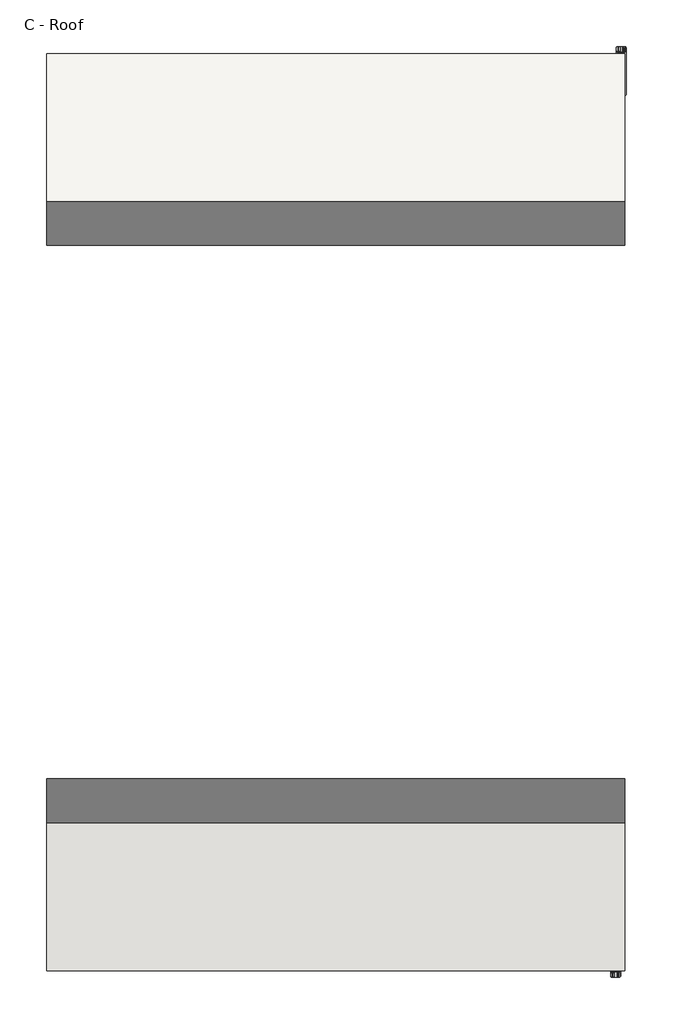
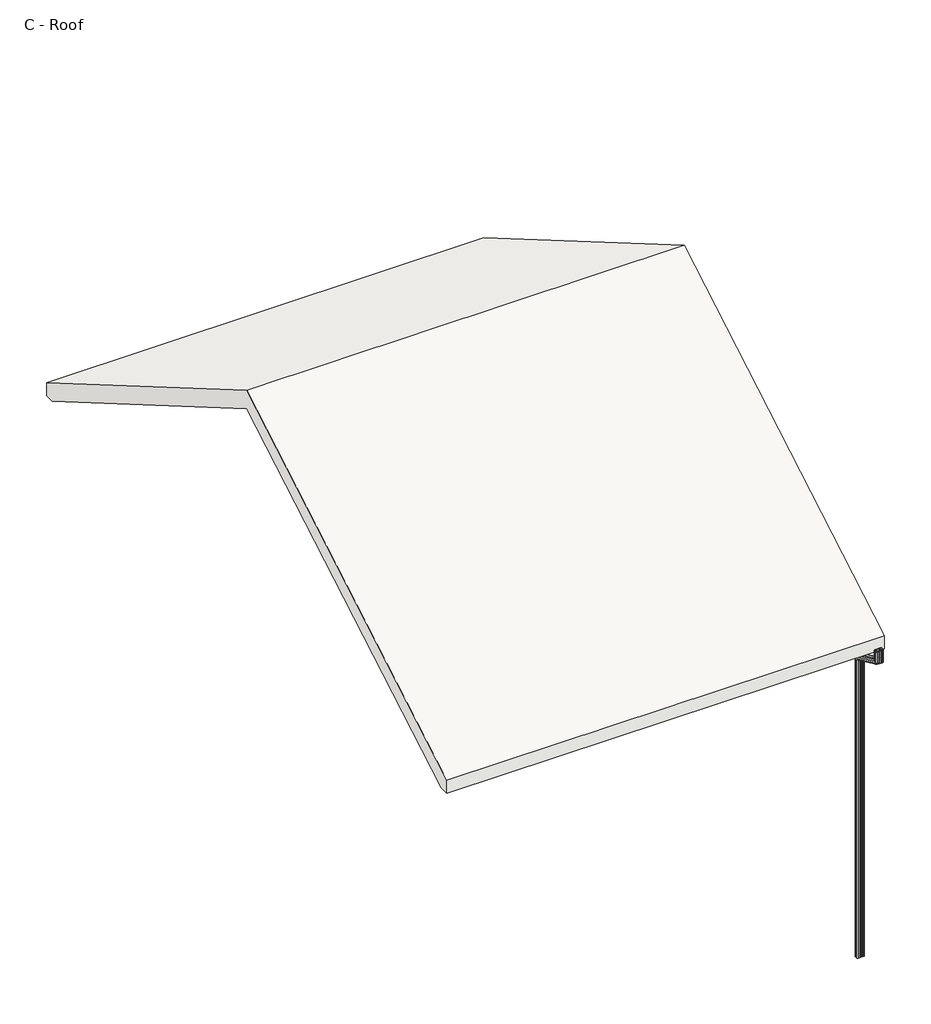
# One storey: 4 proxies, 1 roof.
"""IFC4 building model written with IfcOpenShell, lengths in millimetres."""

from ifc_helpers import new_model, si_unit, frame, origin, place, context, project, spatial, polyline, outline, extrude, transform, mapped, element, save
from components import downspout_parametric_5251_18_830a5993, downspout_parametric_5251_20_f7a235c1

model = new_model("IFC4")

# Units and contexts
model_context = context("Model", 3, world=origin())
ifc_project = project(units=[si_unit("LENGTHUNIT", "METRE", prefix="MILLI")], contexts=[model_context])

# Site, building, storey
site = spatial("IfcSite", under=ifc_project)
building = spatial("IfcBuilding", under=site)
storey = spatial("IfcBuildingStorey", under=building, Name="C - Roof", Elevation=7346.95)

# Proxies
placement = place(None, origin())
downspout_parametric_5251_18_shape = downspout_parametric_5251_18_830a5993(model_context)
element("IfcBuildingElementProxy", 1, Name="Downspout_-_Parametric_5251 : 18'", ObjectType="Downspout_-_Parametric_5251 : 18'", at=placement, inside=storey, context=model_context, shape_type="MappedRepresentation", body=[
    mapped(downspout_parametric_5251_18_shape, transform((10562.1120514, 4843.8210538, 7150.1), x_axis=(-1.0, 0.0, 0.0), y_axis=(0.0, -1.0, 0.0), z_axis=(0.0, 0.0, 1.0))),
])
element("IfcBuildingElementProxy", 2, Name="Downspout_-_Parametric_5251 : 18'", ObjectType="Downspout_-_Parametric_5251 : 18'", at=placement, inside=storey, context=model_context, shape_type="MappedRepresentation", body=[
    mapped(downspout_parametric_5251_18_shape, transform((10527.1870514, 4843.8210538, 7150.1), x_axis=(-1.0, 0.0, 0.0), y_axis=(0.0, -1.0, 0.0), z_axis=(0.0, 0.0, 1.0))),
])
downspout_parametric_5251_20_shape = downspout_parametric_5251_20_f7a235c1(model_context)
element("IfcBuildingElementProxy", 3, Name="Downspout_-_Parametric_5251 : 20'", ObjectType="Downspout_-_Parametric_5251 : 20'", at=placement, inside=storey, context=model_context, shape_type="MappedRepresentation", body=[
    mapped(downspout_parametric_5251_20_shape, transform((10485.9120514, -8018.1039462, 7150.1), x_axis=(1.0, 0.0, 0.0), y_axis=(0.0, 1.0, 0.0), z_axis=(0.0, 0.0, 1.0))),
])
element("IfcBuildingElementProxy", 4, Name="Downspout_-_Parametric_5251 : 20'", ObjectType="Downspout_-_Parametric_5251 : 20'", at=placement, inside=storey, context=model_context, shape_type="MappedRepresentation", body=[
    mapped(downspout_parametric_5251_20_shape, transform((10450.9870514, -8018.1039462, 7150.1), x_axis=(1.0, 0.0, 0.0), y_axis=(0.0, 1.0, 0.0), z_axis=(0.0, 0.0, 1.0))),
])

# Roof
element("IfcRoof", 5, ObjectType="Wood Rafter 12\" - Asphalt Shingle", at=placement, inside=storey, context=model_context, shape_type="SweptSolid", body=[
    extrude(outline(polyline([(-7964.1289462, 7351.5694956), (-1590.3164462, 11069.6267873), (4783.4960538, 7351.5694956), (4783.4960538, 7097.5694956), (4601.4054899, 7097.5694956), (-1590.3164462, 10709.4072917), (-7782.0383823, 7097.5694956), (-7964.1289462, 7097.5694956), (-7964.1289462, 7351.5694956)])), frame((2557.9370514, 0.0, 0.0), z_axis=(1.0, 0.0, 0.0), x_axis=(0.0, 1.0, 0.0)), (0.0, 0.0, 1.0), 8039.1),
])

save(model, "model.ifc")
